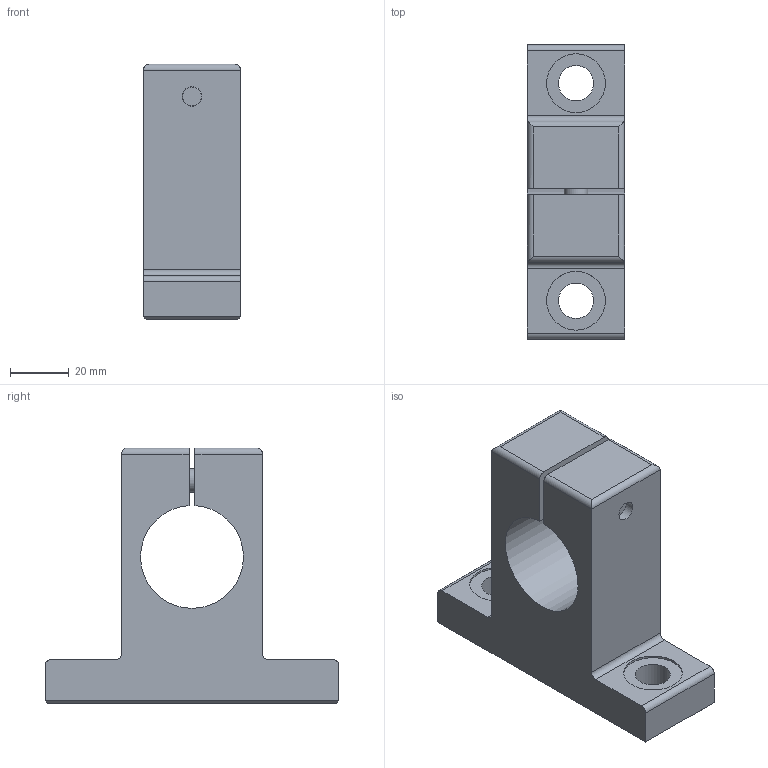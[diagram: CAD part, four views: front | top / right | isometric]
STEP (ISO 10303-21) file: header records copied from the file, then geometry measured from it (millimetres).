
FILE_DESCRIPTION((''),'2;1');
FILE_NAME('D:\製品 (図面)\カタログ用3D\シャフトブロック関連\STEP形式\SB\SB35.stp','2010-06-01T16:19:36',('Tsuchiya'),(''),'Autodesk Inventor 10','Autodesk Inventor 10','');
FILE_SCHEMA(('AUTOMOTIVE_DESIGN { 1 0 10303 214 1 1 1 1 }'));
Length unit declared in the file: millimetre
Products named in the file (1): SB35
Bounding box: 33 x 100 x 87 mm (x, y, z)
Volume: 125296.9 mm3; surface area: 26966.3 mm2
Topology: 1 solids, 1 shells, 52 faces, 123 edges, 79 vertices
Faces by surface type: plane 28, cylinder 17, bspline 4, cone 2, torus 1
Full cylindrical faces by diameter (mm): 8 x1, 12 x2, 13 x1, 20 x2
Entity records: 1474 total; most frequent: CARTESIAN_POINT 303, DIRECTION 238, ORIENTED_EDGE 216, EDGE_CURVE 108, AXIS2_PLACEMENT_3D 87, VERTEX_POINT 76, EDGE_LOOP 76, VECTOR 64
